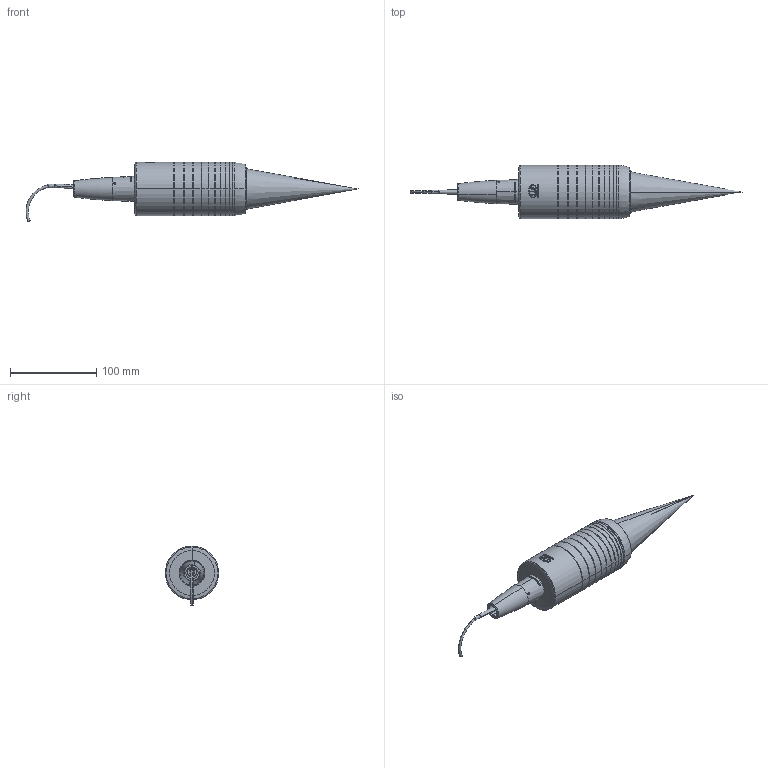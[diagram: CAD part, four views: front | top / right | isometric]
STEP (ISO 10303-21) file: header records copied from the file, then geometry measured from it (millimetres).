
FILE_DESCRIPTION (( 'STEP AP214' ), '1' );
FILE_NAME ('2602023 IFS2405-30 Sensor, vereinfacht.STEP', '2013-01-24T16:18:34', ( 'MICRO-EPSILON Optronic GmbH' ), ( 'MICRO-EPSILON Optronic GmbH' ), 'SwSTEP 2.0', 'SolidWorks 2012', '' );
FILE_SCHEMA (( 'AUTOMOTIVE_DESIGN' ));
Length unit declared in the file: millimetre
Products named in the file (1): 2602023 IFS2405-30 Sensor, vereinfacht
Bounding box: 385.41 x 62 x 69.01 mm (x, y, z)
Volume: 435982.7 mm3; surface area: 58714.5 mm2
Topology: 2 solids, 5 shells, 213 faces, 823 edges, 672 vertices
Faces by surface type: cylinder 80, torus 64, cone 52, plane 15, bspline 2
Entity records: 16615 total; most frequent: CARTESIAN_POINT 7745, ORIENTED_EDGE 1630, DIRECTION 1068, EDGE_CURVE 815, VERTEX_POINT 672, AXIS2_PLACEMENT_3D 473, B_SPLINE_CURVE_WITH_KNOTS 428, EDGE_LOOP 277
